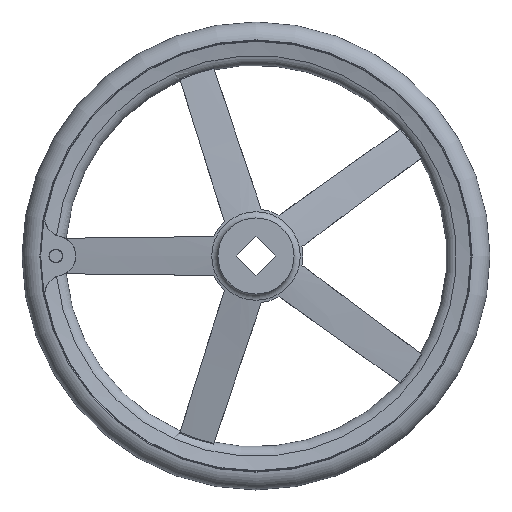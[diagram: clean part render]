
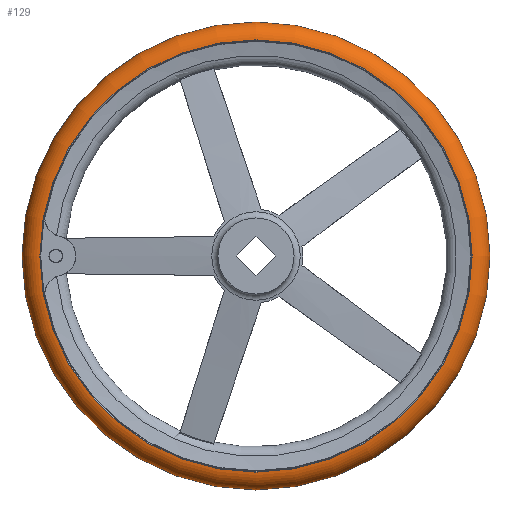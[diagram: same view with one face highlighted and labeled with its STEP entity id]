
A CAD part, left-side view. The second image highlights one B-rep face of the part: STEP entity #129.
In plain terms, the highlighted toroidal (fillet/blend) face has major radius 183.986 mm and minor radius 16.015 mm.
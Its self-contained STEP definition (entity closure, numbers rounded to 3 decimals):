
#129 = ADVANCED_FACE( '', ( #267, #268, #269 ), #270, .T. );
#267 = FACE_BOUND( '', #419, .T. );
#268 = FACE_OUTER_BOUND( '', #420, .T. );
#269 = FACE_OUTER_BOUND( '', #421, .T. );
#270 = TOROIDAL_SURFACE( '', #422, 183.986, 16.014 );
#419 = VERTEX_LOOP( '', #933 );
#420 = EDGE_LOOP( '', ( #934 ) );
#421 = EDGE_LOOP( '', ( #935 ) );
#422 = AXIS2_PLACEMENT_3D( '', #936, #937, #938 );
#933 = VERTEX_POINT( '', #1129 );
#934 = ORIENTED_EDGE( '', *, *, #1130, .T. );
#935 = ORIENTED_EDGE( '', *, *, #1037, .F. );
#936 = CARTESIAN_POINT( '', ( 47., 0., 0. ) );
#937 = DIRECTION( '', ( 1., 0., 0. ) );
#938 = DIRECTION( '', ( 0., 1., 0. ) );
#1037 = EDGE_CURVE( '', #1248, #1248, #1249, .T. );
#1129 = CARTESIAN_POINT( '', ( 47., 200., 0. ) );
#1130 = EDGE_CURVE( '', #1394, #1394, #1395, .T. );
#1248 = VERTEX_POINT( '', #1806 );
#1249 = CIRCLE( '', #1807, 184.667 );
#1394 = VERTEX_POINT( '', #2352 );
#1395 = CIRCLE( '', #2353, 184.667 );
#1806 = CARTESIAN_POINT( '', ( 63., 184.667, 0. ) );
#1807 = AXIS2_PLACEMENT_3D( '', #2443, #2444, #2445 );
#2352 = CARTESIAN_POINT( '', ( 31., 184.667, 0. ) );
#2353 = AXIS2_PLACEMENT_3D( '', #2555, #2556, #2557 );
#2443 = CARTESIAN_POINT( '', ( 63., 0., 0. ) );
#2444 = DIRECTION( '', ( 1., 0., 0. ) );
#2445 = DIRECTION( '', ( 0., 1., 0. ) );
#2555 = CARTESIAN_POINT( '', ( 31., 0., 0. ) );
#2556 = DIRECTION( '', ( 1., 0., 0. ) );
#2557 = DIRECTION( '', ( 0., 1., 0. ) );
